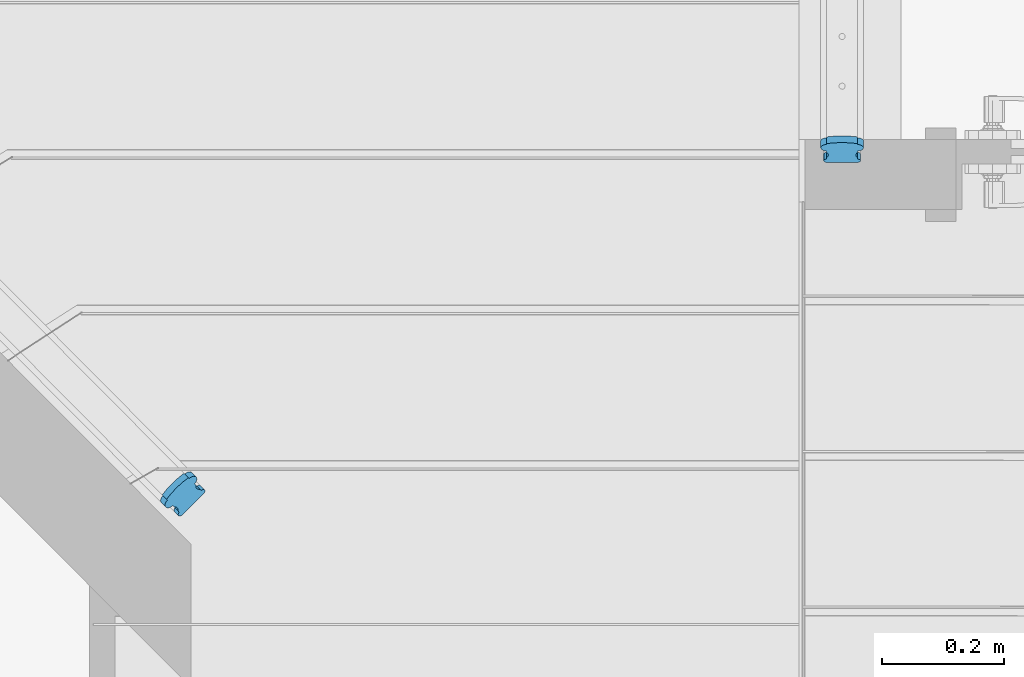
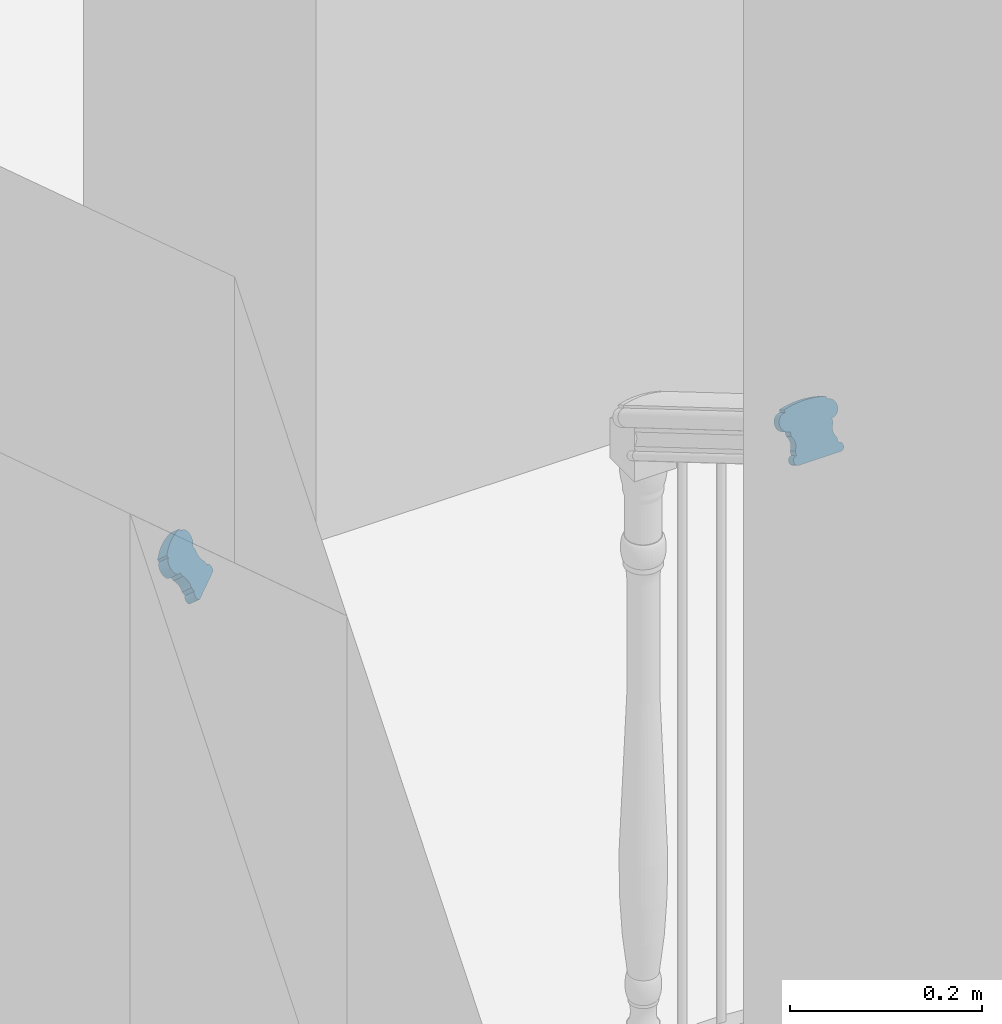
# One storey, part 7 of 24: 2 building element parts, 2 elements without a shape of their own.
"""IFC2X3 building model written with IfcOpenShell, lengths in inches."""

from ifc_helpers import new_model, entity, si_unit, converted_unit, derived_unit, money_unit, direction, frame, origin_with_axes, place, context, subcontext, project, spatial, faceted_brep, material, type_object, element, aggregate, save


model = new_model("IFC2X3")

# Units and contexts
model_context = context("Model", 3, precision=0.000393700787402, world=origin_with_axes(), true_north=direction((0.0, 1.0)))
body_context = subcontext(model_context, "Body", "Model", "MODEL_VIEW")
ifc_project = project(units=[converted_unit("LENGTHUNIT", "INCH", entity("IfcPositiveLengthMeasure", 0.0254), si_unit("LENGTHUNIT", "METRE"), dimensions=[1, 0, 0, 0, 0, 0, 0]), converted_unit("AREAUNIT", "SQUARE_FOOT", entity("IfcPositiveLengthMeasure", 0.09290304), si_unit("AREAUNIT", "SQUARE_METRE"), dimensions=[2, 0, 0, 0, 0, 0, 0]), si_unit("PLANEANGLEUNIT", "RADIAN"), si_unit("SOLIDANGLEUNIT", "STERADIAN"), money_unit("USD"), converted_unit("TIMEUNIT", "Year", entity("IfcTimeMeasure", 31556926.0), si_unit("TIMEUNIT", "SECOND"), dimensions=[0, 0, 1, 0, 0, 0, 0]), si_unit("MASSUNIT", "GRAM", prefix="KILO"), si_unit("THERMODYNAMICTEMPERATUREUNIT", "DEGREE_CELSIUS"), si_unit("LUMINOUSINTENSITYUNIT", "LUMEN"), si_unit("ENERGYUNIT", "JOULE", prefix="MEGA"), derived_unit("THERMALCONDUCTANCEUNIT", [(si_unit("POWERUNIT", "WATT"), 1), (si_unit("LENGTHUNIT", "METRE"), -1), (si_unit("THERMODYNAMICTEMPERATUREUNIT", "KELVIN"), -1)]), derived_unit("SPECIFICHEATCAPACITYUNIT", [(si_unit("ENERGYUNIT", "JOULE"), 1), (si_unit("MASSUNIT", "GRAM", prefix="KILO"), -1), (si_unit("THERMODYNAMICTEMPERATUREUNIT", "KELVIN"), -1)]), derived_unit("MASSDENSITYUNIT", [(si_unit("MASSUNIT", "GRAM", prefix="KILO"), 1), (si_unit("VOLUMEUNIT", "CUBIC_METRE"), -1)])], contexts=[model_context])

# Site, building, storey
site_placement = place(None, origin_with_axes())
site = spatial("IfcSite", under=ifc_project, at=site_placement, Name="Site", CompositionType="ELEMENT")
building_placement = place(site_placement, origin_with_axes())
building = spatial("IfcBuilding", under=site, at=building_placement, Name="Building", CompositionType="ELEMENT")
storey_placement = place(building_placement, origin_with_axes())
storey = spatial("IfcBuildingStorey", under=building, at=storey_placement, Name="First Floor", CompositionType="ELEMENT", Elevation=0.0)

# Railing, building element part
railing_type = type_object("IfcRailingType", Name="Railing Type", PredefinedType="NOTDEFINED")
railing_1_placement = place(storey_placement, frame((643.989643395, 118.830878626, 0.0), z_axis=(0.0, 0.0, 1.0), x_axis=(-1.0, 0.0, 0.0)))
railing_1 = element("IfcRailing", 1, at=railing_1_placement, inside=storey, type_object=railing_type, Name="RAILING - 001", PredefinedType="NOTDEFINED")
ifc_material = material(Name="Wood - Structural")
building_element_part_1_placement = place(railing_1_placement, origin_with_axes())
building_element_part_1 = element("IfcBuildingElementPart", 2, at=building_element_part_1_placement, material=ifc_material, Name="Wood - Structural", context=body_context, shape_type="Brep", body=[
    faceted_brep([(1.84346741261, -3.22663665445, 68.1992433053), (1.79199712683, -3.17480793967, 68.1007156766), (1.50896729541, -2.88980714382, 68.3984885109), (1.56043758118, -2.94163585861, 68.4970161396), (1.80790270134, -3.27391277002, 68.2106877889), (1.57457637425, -3.56377304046, 68.2663412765), (1.32373501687, -3.8420644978, 68.2942743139), (1.05728768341, -4.106669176, 68.2942743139), (0.777262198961, -4.3555732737, 68.2663412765), (0.485789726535, -4.58688248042, 68.2106877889), (0.438267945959, -4.62211825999, 68.1992433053), (0.386797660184, -4.5702895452, 68.1007156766), (0.362347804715, -4.59326454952, 68.0994659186), (0.310283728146, -4.63458200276, 68.0895248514), (0.25533149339, -4.66869666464, 68.0699447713), (0.199160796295, -4.69457197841, 68.0413206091), (0.143478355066, -4.71142173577, 68.0045220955), (0.0899760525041, -4.71873396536, 67.9606673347), (0.0402795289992, -4.71628648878, 67.9110888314), (-0.0041012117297, -4.70415367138, 67.8572930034), (-0.0418176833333, -4.68270416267, 67.8009144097), (-0.0717238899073, -4.65258969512, 67.7436660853), (-0.0929111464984, -4.61472528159, 67.6872874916), (-0.104735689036, -4.57026141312, 67.6334916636), (-0.10683823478, -4.52054910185, 67.5839131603), (-0.0991548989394, -4.46709883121, 67.5400583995), (-0.0819191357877, -4.41153466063, 67.5032598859), (-0.055654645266, -4.3555448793, 67.4746357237), (-0.0211594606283, -4.30083070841, 67.4550556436), (0.0205182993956, -4.24905461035, 67.4451145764), (0.0436624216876, -4.22476477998, 67.4438648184), (-0.0421213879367, -4.13838358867, 67.2796521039), (-0.0392980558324, -4.10918669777, 67.2543910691), (-0.0417927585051, -4.05020228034, 67.1955654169), (-0.055822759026, -3.99744522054, 67.1317358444), (-0.0809617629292, -3.95251851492, 67.0648417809), (-0.116445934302, -3.91678723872, 66.9969157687), (-0.161197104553, -3.89133706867, 66.9300217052), (-0.213855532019, -3.87694129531, 66.8661921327), (-0.272821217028, -3.87403732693, 66.8073664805), (-0.302036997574, -3.87665797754, 66.7821054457), (-0.387820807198, -3.79027678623, 66.6178927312), (-0.400045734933, -3.80176428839, 66.6172678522), (-0.426077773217, -3.82242301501, 66.6122973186), (-0.453553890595, -3.83948034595, 66.6025072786), (-0.481639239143, -3.85241800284, 66.5881951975), (-0.509480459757, -3.86084288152, 66.5697959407), (-0.536231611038, -3.86449899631, 66.5478685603), (-0.561079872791, -3.86327525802, 66.5230793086), (-0.583270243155, -3.85720884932, 66.4961813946), (-0.602128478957, -3.84648409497, 66.4679920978), (-0.617081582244, -3.83142686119, 66.4393679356), (-0.62767521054, -3.81249465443, 66.4111786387), (-0.633587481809, -3.79026272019, 66.3842807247), (-0.63463875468, -3.76540656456, 66.3594914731), (-0.63079708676, -3.73868142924, 66.3375640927), (-0.622179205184, -3.71089934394, 66.3191648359), (-0.609046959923, -3.68290445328, 66.3048527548), (-0.591799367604, -3.65554736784, 66.2950627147), (-0.570960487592, -3.62965931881, 66.2900921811), (-0.559388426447, -3.61751440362, 66.2894673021), (0.845811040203, -2.22203279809, 66.2894673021), (0.858035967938, -2.21054529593, 66.2900921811), (0.884068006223, -2.18988656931, 66.2950627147), (0.9115441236, -2.17282923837, 66.3048527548), (0.939629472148, -2.15989158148, 66.3191648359), (0.967470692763, -2.15146670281, 66.3375640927), (0.994221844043, -2.14781058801, 66.3594914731), (1.0190701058, -2.1490343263, 66.3842807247), (1.04126047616, -2.155100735, 66.4111786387), (1.06011871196, -2.16582548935, 66.4393679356), (1.07507181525, -2.18088272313, 66.4679920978), (1.08566544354, -2.1998149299, 66.4961813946), (1.09157771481, -2.22204686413, 66.5230793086), (1.09262898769, -2.24690301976, 66.5478685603), (1.08878731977, -2.27362815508, 66.5697959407), (1.08016943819, -2.30141024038, 66.5881951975), (1.06703719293, -2.32940513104, 66.6025072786), (1.04978960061, -2.35676221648, 66.6122973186), (1.0289507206, -2.38265026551, 66.6172678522), (1.01737865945, -2.3947951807, 66.6178927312), (1.10316246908, -2.48117637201, 66.7821054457), (1.10033913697, -2.51037326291, 66.8073664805), (1.10283383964, -2.56935768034, 66.8661921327), (1.11686384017, -2.62211474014, 66.9300217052), (1.14200284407, -2.66704144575, 66.9969157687), (1.17748701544, -2.70277272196, 67.0648417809), (1.22223818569, -2.72822289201, 67.1317358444), (1.27489661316, -2.74261866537, 67.1955654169), (1.33386229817, -2.74552263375, 67.2543910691), (1.36307807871, -2.74290198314, 67.2796521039), (1.44886188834, -2.82928317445, 67.4438648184), (1.47331174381, -2.80630817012, 67.4451145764), (1.52537582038, -2.76499071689, 67.4550556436), (1.58032805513, -2.73087605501, 67.4746357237), (1.63649875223, -2.70500074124, 67.5032598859), (1.69218119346, -2.68815098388, 67.5400583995), (1.74568349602, -2.68083875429, 67.5839131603), (1.79538001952, -2.68328623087, 67.6334916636), (1.83976076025, -2.69541904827, 67.6872874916), (1.87747723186, -2.71686855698, 67.7436660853), (1.90738343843, -2.74698302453, 67.8009144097), (1.92857069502, -2.78484743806, 67.8572930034), (1.94039523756, -2.82931130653, 67.9110888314), (1.9424977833, -2.8790236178, 67.9606673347), (1.93481444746, -2.93247388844, 68.0045220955), (1.91757868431, -2.98803805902, 68.0413206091), (1.89131419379, -3.04402784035, 68.0699447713), (1.85681900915, -3.09874201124, 68.0895248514), (1.81514124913, -3.1505181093, 68.0994659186), (1.5321114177, -2.86551731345, 68.397238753), (1.57378917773, -2.81374121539, 68.3872976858), (1.60828436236, -2.7590270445, 68.3677176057), (1.63454885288, -2.70303726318, 68.3390934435), (1.65178461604, -2.64747309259, 68.3022949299), (1.65946795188, -2.59402282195, 68.2584401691), (1.65736540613, -2.54431051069, 68.2088616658), (1.6455408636, -2.49984664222, 68.1550658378), (1.624353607, -2.46198222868, 68.0986872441), (1.59444740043, -2.43186776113, 68.0414389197), (1.55673092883, -2.41041825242, 67.9850603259), (1.5123501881, -2.39828543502, 67.9312644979), (1.46265366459, -2.39583795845, 67.8816859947), (1.40915136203, -2.40315018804, 67.8378312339), (1.3534689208, -2.41999994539, 67.8010327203), (1.29729822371, -2.44587525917, 67.7724085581), (1.24234598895, -2.47998992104, 67.7528284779), (1.19028191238, -2.52130737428, 67.7428874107), (1.16583205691, -2.5442823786, 67.7416376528), (1.08004824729, -2.4579011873, 67.5774249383), (1.05083246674, -2.4605218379, 67.5521639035), (0.991866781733, -2.45761786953, 67.4933382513), (0.939208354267, -2.44322209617, 67.4295086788), (0.894457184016, -2.41777192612, 67.3626146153), (0.858973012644, -2.38204064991, 67.2946886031), (0.833834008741, -2.3371139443, 67.2277945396), (0.81980400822, -2.28435688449, 67.1639649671), (0.817309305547, -2.22537246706, 67.1051393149), (0.820132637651, -2.19617557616, 67.0798782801), (0.734348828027, -2.10979438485, 66.9156655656), (0.745920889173, -2.09764946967, 66.9150406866), (0.766759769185, -2.07176142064, 66.910070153), (0.784007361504, -2.04440433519, 66.9002801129), (0.797139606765, -2.01640944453, 66.8859680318), (0.80575748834, -1.98862735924, 66.867568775), (0.80959915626, -1.96190222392, 66.8456413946), (0.808547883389, -1.93704606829, 66.820852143), (0.80263561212, -1.91481413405, 66.793954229), (0.792041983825, -1.89588192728, 66.7657649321), (0.777088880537, -1.88082469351, 66.7371407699), (0.758230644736, -1.87009993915, 66.7089514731), (0.736040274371, -1.86403353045, 66.6820535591), (0.711192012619, -1.86280979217, 66.6572643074), (0.684440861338, -1.86646590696, 66.635336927), (0.656599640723, -1.87489078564, 66.6169376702), (0.628514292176, -1.88782844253, 66.6026255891), (0.601038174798, -1.90488577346, 66.5928355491), (0.575006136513, -1.92554450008, 66.5878650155), (0.562781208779, -1.93703200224, 66.5872401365), (-0.842418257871, -3.33251360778, 66.5872401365), (-0.853990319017, -3.34465852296, 66.5878650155), (-0.874829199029, -3.37054657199, 66.5928355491), (-0.892076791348, -3.39790365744, 66.6026255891), (-0.905209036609, -3.4258985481, 66.6169376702), (-0.913826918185, -3.45368063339, 66.635336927), (-0.917668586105, -3.48040576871, 66.6572643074), (-0.916617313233, -3.50526192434, 66.6820535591), (-0.910705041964, -3.52749385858, 66.7089514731), (-0.900111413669, -3.54642606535, 66.7371407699), (-0.885158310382, -3.56148329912, 66.7657649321), (-0.86630007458, -3.57220805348, 66.793954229), (-0.844109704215, -3.57827446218, 66.820852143), (-0.819261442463, -3.57949820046, 66.8456413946), (-0.792510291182, -3.57584208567, 66.867568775), (-0.764669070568, -3.56741720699, 66.8859680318), (-0.73658372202, -3.5544795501, 66.9002801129), (-0.709107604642, -3.53742221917, 66.910070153), (-0.683075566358, -3.51676349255, 66.9150406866), (-0.670850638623, -3.50527599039, 66.9156655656), (-0.585066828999, -3.59165718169, 67.0798782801), (-0.555851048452, -3.58903653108, 67.1051393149), (-0.496885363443, -3.59194049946, 67.1639649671), (-0.444226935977, -3.60633627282, 67.2277945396), (-0.399475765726, -3.63178644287, 67.2946886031), (-0.363991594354, -3.66751771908, 67.3626146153), (-0.338852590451, -3.71244442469, 67.4295086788), (-0.32482258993, -3.7652014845, 67.4933382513), (-0.322327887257, -3.82418590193, 67.5521639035), (-0.325151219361, -3.85338279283, 67.5774249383), (-0.239367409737, -3.93976398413, 67.7416376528), (-0.262511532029, -3.9640538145, 67.7428874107), (-0.304189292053, -4.01582991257, 67.7528284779), (-0.338684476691, -4.07054408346, 67.7724085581), (-0.364948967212, -4.12653386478, 67.8010327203), (-0.382184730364, -4.18209803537, 67.8378312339), (-0.389868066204, -4.235548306, 67.8816859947), (-0.387765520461, -4.28526061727, 67.9312644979), (-0.375940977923, -4.32972448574, 67.9850603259), (-0.354753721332, -4.36758889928, 68.0414389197), (-0.324847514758, -4.39770336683, 68.0986872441), (-0.287131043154, -4.41915287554, 68.1550658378), (-0.242750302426, -4.43128569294, 68.2088616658), (-0.193053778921, -4.43373316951, 68.2584401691), (-0.139551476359, -4.42642093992, 68.3022949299), (-0.0838690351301, -4.40957118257, 68.3390934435), (-0.0276983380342, -4.38369586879, 68.3677176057), (0.0272538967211, -4.34958120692, 68.3872976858), (0.07931797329, -4.30826375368, 68.397238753), (0.10376782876, -4.28528874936, 68.3984885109), (0.155238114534, -4.33711746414, 68.4970161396), (0.20275989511, -4.30188168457, 68.5084606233), (0.494232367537, -4.07057247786, 68.5641141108), (0.77425785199, -3.82166838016, 68.5920471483), (1.04070518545, -3.55706370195, 68.5920471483), (1.29154654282, -3.27877224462, 68.5641141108), (1.52487286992, -2.98891197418, 68.5084606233)], [[[0, 1, 2, 3]], [[0, 4, 5, 6, 7, 8, 9, 10, 11, 12, 13, 14, 15, 16, 17, 18, 19, 20, 21, 22, 23, 24, 25, 26, 27, 28, 29, 30, 31, 32, 33, 34, 35, 36, 37, 38, 39, 40, 41, 42, 43, 44, 45, 46, 47, 48, 49, 50, 51, 52, 53, 54, 55, 56, 57, 58, 59, 60, 61, 62, 63, 64, 65, 66, 67, 68, 69, 70, 71, 72, 73, 74, 75, 76, 77, 78, 79, 80, 81, 82, 83, 84, 85, 86, 87, 88, 89, 90, 91, 92, 93, 94, 95, 96, 97, 98, 99, 100, 101, 102, 103, 104, 105, 106, 107, 108, 109, 1]], [[1, 109, 110, 2]], [[3, 2, 110, 111, 112, 113, 114, 115, 116, 117, 118, 119, 120, 121, 122, 123, 124, 125, 126, 127, 128, 129, 130, 131, 132, 133, 134, 135, 136, 137, 138, 139, 140, 141, 142, 143, 144, 145, 146, 147, 148, 149, 150, 151, 152, 153, 154, 155, 156, 157, 158, 159, 160, 161, 162, 163, 164, 165, 166, 167, 168, 169, 170, 171, 172, 173, 174, 175, 176, 177, 178, 179, 180, 181, 182, 183, 184, 185, 186, 187, 188, 189, 190, 191, 192, 193, 194, 195, 196, 197, 198, 199, 200, 201, 202, 203, 204, 205, 206, 207, 208, 209, 210, 211, 212, 213, 214, 215]], [[4, 0, 3, 215]], [[5, 4, 215, 214]], [[6, 5, 214, 213]], [[7, 6, 213, 212]], [[8, 7, 212, 211]], [[9, 8, 211, 210]], [[10, 9, 210, 209]], [[11, 10, 209, 208]], [[12, 11, 208, 207]], [[13, 12, 207, 206]], [[14, 13, 206, 205]], [[15, 14, 205, 204]], [[16, 15, 204, 203]], [[17, 16, 203, 202]], [[18, 17, 202, 201]], [[19, 18, 201, 200]], [[20, 19, 200, 199]], [[21, 20, 199, 198]], [[22, 21, 198, 197]], [[23, 22, 197, 196]], [[24, 23, 196, 195]], [[25, 24, 195, 194]], [[26, 25, 194, 193]], [[27, 26, 193, 192]], [[28, 27, 192, 191]], [[29, 28, 191, 190]], [[30, 29, 190, 189]], [[31, 30, 189, 188]], [[32, 31, 188, 187]], [[33, 32, 187, 186]], [[34, 33, 186, 185]], [[35, 34, 185, 184]], [[36, 35, 184, 183]], [[37, 36, 183, 182]], [[38, 37, 182, 181]], [[39, 38, 181, 180]], [[40, 39, 180, 179]], [[41, 40, 179, 178]], [[42, 41, 178, 177]], [[43, 42, 177, 176]], [[44, 43, 176, 175]], [[45, 44, 175, 174]], [[46, 45, 174, 173]], [[47, 46, 173, 172]], [[48, 47, 172, 171]], [[49, 48, 171, 170]], [[50, 49, 170, 169]], [[51, 50, 169, 168]], [[52, 51, 168, 167]], [[53, 52, 167, 166]], [[54, 53, 166, 165]], [[55, 54, 165, 164]], [[56, 55, 164, 163]], [[57, 56, 163, 162]], [[58, 57, 162, 161]], [[59, 58, 161, 160]], [[60, 59, 160, 159]], [[61, 60, 159, 158]], [[62, 61, 158, 157]], [[63, 62, 157, 156]], [[64, 63, 156, 155]], [[65, 64, 155, 154]], [[66, 65, 154, 153]], [[67, 66, 153, 152]], [[68, 67, 152, 151]], [[69, 68, 151, 150]], [[70, 69, 150, 149]], [[71, 70, 149, 148]], [[72, 71, 148, 147]], [[73, 72, 147, 146]], [[74, 73, 146, 145]], [[75, 74, 145, 144]], [[76, 75, 144, 143]], [[77, 76, 143, 142]], [[78, 77, 142, 141]], [[79, 78, 141, 140]], [[80, 79, 140, 139]], [[81, 80, 139, 138]], [[82, 81, 138, 137]], [[83, 82, 137, 136]], [[84, 83, 136, 135]], [[85, 84, 135, 134]], [[86, 85, 134, 133]], [[87, 86, 133, 132]], [[88, 87, 132, 131]], [[89, 88, 131, 130]], [[90, 89, 130, 129]], [[91, 90, 129, 128]], [[92, 91, 128, 127]], [[93, 92, 127, 126]], [[94, 93, 126, 125]], [[95, 94, 125, 124]], [[96, 95, 124, 123]], [[97, 96, 123, 122]], [[98, 97, 122, 121]], [[99, 98, 121, 120]], [[100, 99, 120, 119]], [[101, 100, 119, 118]], [[102, 101, 118, 117]], [[103, 102, 117, 116]], [[104, 103, 116, 115]], [[105, 104, 115, 114]], [[106, 105, 114, 113]], [[107, 106, 113, 112]], [[108, 107, 112, 111]], [[109, 108, 111, 110]]]),
])
aggregate(railing_1, [building_element_part_1])

railing_2_placement = place(storey_placement, frame((687.845851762, 140.777338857, -3.51027133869e-07), z_axis=(0.0, 0.0, 1.0), x_axis=(1.0, 0.0, 0.0)))
railing_2 = element("IfcRailing", 3, at=railing_2_placement, inside=storey, type_object=railing_type, Name="RAILING - 003", PredefinedType="NOTDEFINED")
building_element_part_2_placement = place(railing_2_placement, origin_with_axes())
building_element_part_2 = element("IfcBuildingElementPart", 4, at=building_element_part_2_placement, material=ifc_material, Name="Wood - Structural", context=body_context, shape_type="Brep", body=[
    faceted_brep([(-2.95870018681, 4.31198348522, 46.7938011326), (-2.95870018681, 4.24975180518, 46.6881114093), (-2.95870018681, 3.81889386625, 46.9418069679), (-2.95870018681, 3.88112554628, 47.0474966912), (-2.90015196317, 4.31921201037, 46.8060775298), (-2.53034410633, 4.35436367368, 46.8657765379), (-2.15626030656, 4.37200664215, 46.8957400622), (-1.78074756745, 4.37200664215, 46.8957400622), (-1.40666376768, 4.35436367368, 46.8657765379), (-1.03685591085, 4.31921201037, 46.8060775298), (-0.97830768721, 4.31198348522, 46.7938011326), (-0.97830768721, 4.24975180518, 46.6881114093), (-0.944769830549, 4.24896243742, 46.6867708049), (-0.878713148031, 4.24268349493, 46.6761071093), (-0.815682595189, 4.23031639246, 46.655103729), (-0.757593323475, 4.21223689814, 46.6243988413), (-0.706210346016, 4.18899434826, 46.5849253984), (-0.663094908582, 4.16129495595, 46.5378827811), (-0.629557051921, 4.12998035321, 46.4847003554), (-0.606615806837, 4.09600201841, 46.4269940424), (-0.594968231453, 4.06039236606, 46.3665172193), (-0.594968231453, 4.02423337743, 46.3051074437), (-0.606615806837, 3.98862372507, 46.2446306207), (-0.629557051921, 3.95464539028, 46.1869243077), (-0.663094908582, 3.92333078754, 46.133741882), (-0.706210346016, 3.89563139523, 46.0866992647), (-0.757593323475, 3.87238884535, 46.0472258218), (-0.815682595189, 3.85430935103, 46.016520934), (-0.878713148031, 3.84194224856, 45.9955175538), (-0.944769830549, 3.83566330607, 45.9848538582), (-0.97830768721, 3.8348739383, 45.9835132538), (-0.97830768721, 3.73115447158, 45.807363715), (-1.00088455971, 3.71519918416, 45.7802664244), (-1.04067773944, 3.67804392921, 45.7171646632), (-1.06789787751, 3.63772811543, 45.6486952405), (-1.08171790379, 3.59547671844, 45.5769385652), (-1.08171790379, 3.55257352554, 45.5040749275), (-1.06789787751, 3.51032212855, 45.4323182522), (-1.04067773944, 3.47000631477, 45.3638488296), (-1.00088455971, 3.43285105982, 45.3007470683), (-0.97830768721, 3.4168957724, 45.2736497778), (-0.97830768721, 3.31317630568, 45.0975002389), (-0.96153875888, 3.31278162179, 45.0968299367), (-0.928510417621, 3.30964215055, 45.0914980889), (-0.896995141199, 3.30345859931, 45.0809963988), (-0.867950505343, 3.29441885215, 45.0656439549), (-0.842259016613, 3.28279757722, 45.0459072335), (-0.820701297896, 3.26894788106, 45.0223859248), (-0.803932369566, 3.25329057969, 44.995794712), (-0.792461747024, 3.23630141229, 44.9669415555), (-0.786637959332, 3.21849658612, 44.936703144), (-0.786637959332, 3.2004170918, 44.9059982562), (-0.792461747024, 3.18261226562, 44.8757598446), (-0.803932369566, 3.16562309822, 44.8469066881), (-0.820701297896, 3.14996579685, 44.8203154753), (-0.842259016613, 3.1361161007, 44.7967941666), (-0.867950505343, 3.12449482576, 44.7770574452), (-0.896995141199, 3.1154550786, 44.7617050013), (-0.928510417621, 3.10927152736, 44.7512033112), (-0.96153875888, 3.10613205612, 44.7458714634), (-0.97830768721, 3.10573737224, 44.7452011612), (-2.95870018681, 3.10573737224, 44.7452011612), (-2.97546911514, 3.10613205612, 44.7458714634), (-3.0084974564, 3.10927152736, 44.7512033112), (-3.04001273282, 3.1154550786, 44.7617050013), (-3.06905736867, 3.12449482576, 44.7770574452), (-3.0947488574, 3.1361161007, 44.7967941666), (-3.11630657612, 3.14996579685, 44.8203154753), (-3.13307550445, 3.16562309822, 44.8469066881), (-3.14454612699, 3.18261226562, 44.8757598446), (-3.15036991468, 3.2004170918, 44.9059982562), (-3.15036991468, 3.21849658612, 44.936703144), (-3.14454612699, 3.23630141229, 44.9669415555), (-3.13307550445, 3.25329057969, 44.995794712), (-3.11630657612, 3.26894788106, 45.0223859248), (-3.0947488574, 3.28279757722, 45.0459072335), (-3.06905736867, 3.29441885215, 45.0656439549), (-3.04001273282, 3.30345859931, 45.0809963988), (-3.0084974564, 3.30964215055, 45.0914980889), (-2.97546911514, 3.31278162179, 45.0968299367), (-2.95870018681, 3.31317630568, 45.0975002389), (-2.95870018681, 3.4168957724, 45.2736497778), (-2.93612331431, 3.43285105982, 45.3007470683), (-2.89633013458, 3.47000631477, 45.3638488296), (-2.86910999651, 3.51032212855, 45.4323182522), (-2.85528997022, 3.55257352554, 45.5040749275), (-2.85528997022, 3.59547671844, 45.5769385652), (-2.86910999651, 3.63772811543, 45.6486952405), (-2.89633013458, 3.67804392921, 45.7171646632), (-2.93612331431, 3.71519918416, 45.7802664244), (-2.95870018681, 3.73115447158, 45.807363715), (-2.95870018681, 3.8348739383, 45.9835132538), (-2.99223804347, 3.83566330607, 45.9848538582), (-3.05829472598, 3.84194224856, 45.9955175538), (-3.12132527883, 3.85430935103, 46.016520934), (-3.17941455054, 3.87238884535, 46.0472258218), (-3.230797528, 3.89563139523, 46.0866992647), (-3.27391296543, 3.92333078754, 46.133741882), (-3.30745082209, 3.95464539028, 46.1869243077), (-3.33039206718, 3.98862372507, 46.2446306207), (-3.34203964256, 4.02423337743, 46.3051074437), (-3.34203964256, 4.06039236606, 46.3665172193), (-3.33039206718, 4.09600201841, 46.4269940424), (-3.30745082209, 4.12998035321, 46.4847003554), (-3.27391296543, 4.16129495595, 46.5378827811), (-3.230797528, 4.18899434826, 46.5849253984), (-3.17941455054, 4.21223689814, 46.6243988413), (-3.12132527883, 4.23031639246, 46.655103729), (-3.05829472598, 4.24268349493, 46.6761071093), (-2.99223804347, 4.24896243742, 46.6867708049), (-2.99223804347, 3.81810449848, 46.9404663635), (-3.05829472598, 3.81182555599, 46.9298026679), (-3.12132527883, 3.79945845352, 46.9087992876), (-3.17941455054, 3.7813789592, 46.8780943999), (-3.230797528, 3.75813640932, 46.838620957), (-3.27391296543, 3.73043701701, 46.7915783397), (-3.30745082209, 3.69912241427, 46.738395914), (-3.33039206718, 3.66514407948, 46.680689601), (-3.34203964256, 3.62953442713, 46.6202127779), (-3.34203964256, 3.59337543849, 46.5588030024), (-3.33039206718, 3.55776578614, 46.4983261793), (-3.30745082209, 3.52378745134, 46.4406198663), (-3.27391296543, 3.4924728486, 46.3874374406), (-3.230797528, 3.46477345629, 46.3403948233), (-3.17941455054, 3.44153090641, 46.3009213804), (-3.12132527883, 3.4234514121, 46.2702164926), (-3.05829472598, 3.41108430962, 46.2492131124), (-2.99223804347, 3.40480536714, 46.2385494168), (-2.95870018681, 3.40401599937, 46.2372088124), (-2.95870018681, 3.30029653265, 46.0610592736), (-2.93612331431, 3.28434124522, 46.033961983), (-2.89633013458, 3.24718599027, 45.9708602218), (-2.86910999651, 3.2068701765, 45.9023907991), (-2.85528997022, 3.1646187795, 45.8306341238), (-2.85528997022, 3.1217155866, 45.7577704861), (-2.86910999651, 3.07946418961, 45.6860138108), (-2.89633013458, 3.03914837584, 45.6175443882), (-2.93612331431, 3.00199312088, 45.5544426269), (-2.95870018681, 2.98603783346, 45.5273453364), (-2.95870018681, 2.88231836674, 45.3511957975), (-2.97546911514, 2.88192368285, 45.3505254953), (-3.0084974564, 2.87878421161, 45.3451936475), (-3.04001273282, 2.87260066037, 45.3346919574), (-3.06905736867, 2.86356091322, 45.3193395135), (-3.0947488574, 2.85193963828, 45.2996027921), (-3.11630657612, 2.83808994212, 45.2760814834), (-3.13307550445, 2.82243264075, 45.2494902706), (-3.14454612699, 2.80544347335, 45.2206371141), (-3.15036991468, 2.78763864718, 45.1903987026), (-3.15036991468, 2.76955915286, 45.1596938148), (-3.14454612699, 2.75175432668, 45.1294554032), (-3.13307550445, 2.73476515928, 45.1006022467), (-3.11630657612, 2.71910785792, 45.0740110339), (-3.0947488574, 2.70525816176, 45.0504897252), (-3.06905736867, 2.69363688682, 45.0307530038), (-3.04001273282, 2.68459713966, 45.0154005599), (-3.0084974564, 2.67841358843, 45.0048988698), (-2.97546911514, 2.67527411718, 44.999567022), (-2.95870018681, 2.6748794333, 44.9988967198), (-0.97830768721, 2.6748794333, 44.9988967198), (-0.96153875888, 2.67527411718, 44.999567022), (-0.928510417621, 2.67841358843, 45.0048988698), (-0.896995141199, 2.68459713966, 45.0154005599), (-0.867950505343, 2.69363688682, 45.0307530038), (-0.842259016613, 2.70525816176, 45.0504897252), (-0.820701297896, 2.71910785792, 45.0740110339), (-0.803932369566, 2.73476515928, 45.1006022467), (-0.792461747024, 2.75175432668, 45.1294554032), (-0.786637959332, 2.76955915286, 45.1596938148), (-0.786637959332, 2.78763864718, 45.1903987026), (-0.792461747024, 2.80544347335, 45.2206371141), (-0.803932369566, 2.82243264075, 45.2494902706), (-0.820701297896, 2.83808994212, 45.2760814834), (-0.842259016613, 2.85193963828, 45.2996027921), (-0.867950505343, 2.86356091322, 45.3193395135), (-0.896995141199, 2.87260066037, 45.3346919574), (-0.928510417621, 2.87878421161, 45.3451936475), (-0.96153875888, 2.88192368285, 45.3505254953), (-0.97830768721, 2.88231836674, 45.3511957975), (-0.97830768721, 2.98603783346, 45.5273453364), (-1.00088455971, 3.00199312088, 45.5544426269), (-1.04067773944, 3.03914837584, 45.6175443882), (-1.06789787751, 3.07946418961, 45.6860138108), (-1.08171790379, 3.1217155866, 45.7577704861), (-1.08171790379, 3.1646187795, 45.8306341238), (-1.06789787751, 3.2068701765, 45.9023907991), (-1.04067773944, 3.24718599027, 45.9708602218), (-1.00088455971, 3.28434124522, 46.033961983), (-0.97830768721, 3.30029653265, 46.0610592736), (-0.97830768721, 3.40401599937, 46.2372088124), (-0.944769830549, 3.40480536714, 46.2385494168), (-0.878713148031, 3.41108430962, 46.2492131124), (-0.815682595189, 3.4234514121, 46.2702164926), (-0.757593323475, 3.44153090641, 46.3009213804), (-0.706210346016, 3.46477345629, 46.3403948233), (-0.663094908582, 3.4924728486, 46.3874374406), (-0.629557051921, 3.52378745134, 46.4406198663), (-0.606615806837, 3.55776578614, 46.4983261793), (-0.594968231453, 3.59337543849, 46.5588030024), (-0.594968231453, 3.62953442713, 46.6202127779), (-0.606615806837, 3.66514407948, 46.680689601), (-0.629557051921, 3.69912241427, 46.738395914), (-0.663094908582, 3.73043701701, 46.7915783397), (-0.706210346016, 3.75813640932, 46.838620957), (-0.757593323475, 3.7813789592, 46.8780943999), (-0.815682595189, 3.79945845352, 46.9087992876), (-0.878713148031, 3.81182555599, 46.9298026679), (-0.944769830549, 3.81810449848, 46.9404663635), (-0.97830768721, 3.81889386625, 46.9418069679), (-0.97830768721, 3.88112554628, 47.0474966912), (-1.03685591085, 3.88835407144, 47.0597730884), (-1.40666376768, 3.92350573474, 47.1194720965), (-1.78074756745, 3.94114870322, 47.1494356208), (-2.15626030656, 3.94114870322, 47.1494356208), (-2.53034410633, 3.92350573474, 47.1194720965), (-2.90015196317, 3.88835407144, 47.0597730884)], [[[0, 1, 2, 3]], [[0, 4, 5, 6, 7, 8, 9, 10, 11, 12, 13, 14, 15, 16, 17, 18, 19, 20, 21, 22, 23, 24, 25, 26, 27, 28, 29, 30, 31, 32, 33, 34, 35, 36, 37, 38, 39, 40, 41, 42, 43, 44, 45, 46, 47, 48, 49, 50, 51, 52, 53, 54, 55, 56, 57, 58, 59, 60, 61, 62, 63, 64, 65, 66, 67, 68, 69, 70, 71, 72, 73, 74, 75, 76, 77, 78, 79, 80, 81, 82, 83, 84, 85, 86, 87, 88, 89, 90, 91, 92, 93, 94, 95, 96, 97, 98, 99, 100, 101, 102, 103, 104, 105, 106, 107, 108, 109, 1]], [[1, 109, 110, 2]], [[3, 2, 110, 111, 112, 113, 114, 115, 116, 117, 118, 119, 120, 121, 122, 123, 124, 125, 126, 127, 128, 129, 130, 131, 132, 133, 134, 135, 136, 137, 138, 139, 140, 141, 142, 143, 144, 145, 146, 147, 148, 149, 150, 151, 152, 153, 154, 155, 156, 157, 158, 159, 160, 161, 162, 163, 164, 165, 166, 167, 168, 169, 170, 171, 172, 173, 174, 175, 176, 177, 178, 179, 180, 181, 182, 183, 184, 185, 186, 187, 188, 189, 190, 191, 192, 193, 194, 195, 196, 197, 198, 199, 200, 201, 202, 203, 204, 205, 206, 207, 208, 209, 210, 211, 212, 213, 214, 215]], [[4, 0, 3, 215]], [[5, 4, 215, 214]], [[6, 5, 214, 213]], [[7, 6, 213, 212]], [[8, 7, 212, 211]], [[9, 8, 211, 210]], [[10, 9, 210, 209]], [[11, 10, 209, 208]], [[12, 11, 208, 207]], [[13, 12, 207, 206]], [[14, 13, 206, 205]], [[15, 14, 205, 204]], [[16, 15, 204, 203]], [[17, 16, 203, 202]], [[18, 17, 202, 201]], [[19, 18, 201, 200]], [[20, 19, 200, 199]], [[21, 20, 199, 198]], [[22, 21, 198, 197]], [[23, 22, 197, 196]], [[24, 23, 196, 195]], [[25, 24, 195, 194]], [[26, 25, 194, 193]], [[27, 26, 193, 192]], [[28, 27, 192, 191]], [[29, 28, 191, 190]], [[30, 29, 190, 189]], [[31, 30, 189, 188]], [[32, 31, 188, 187]], [[33, 32, 187, 186]], [[34, 33, 186, 185]], [[35, 34, 185, 184]], [[36, 35, 184, 183]], [[37, 36, 183, 182]], [[38, 37, 182, 181]], [[39, 38, 181, 180]], [[40, 39, 180, 179]], [[41, 40, 179, 178]], [[42, 41, 178, 177]], [[43, 42, 177, 176]], [[44, 43, 176, 175]], [[45, 44, 175, 174]], [[46, 45, 174, 173]], [[47, 46, 173, 172]], [[48, 47, 172, 171]], [[49, 48, 171, 170]], [[50, 49, 170, 169]], [[51, 50, 169, 168]], [[52, 51, 168, 167]], [[53, 52, 167, 166]], [[54, 53, 166, 165]], [[55, 54, 165, 164]], [[56, 55, 164, 163]], [[57, 56, 163, 162]], [[58, 57, 162, 161]], [[59, 58, 161, 160]], [[60, 59, 160, 159]], [[61, 60, 159, 158]], [[62, 61, 158, 157]], [[63, 62, 157, 156]], [[64, 63, 156, 155]], [[65, 64, 155, 154]], [[66, 65, 154, 153]], [[67, 66, 153, 152]], [[68, 67, 152, 151]], [[69, 68, 151, 150]], [[70, 69, 150, 149]], [[71, 70, 149, 148]], [[72, 71, 148, 147]], [[73, 72, 147, 146]], [[74, 73, 146, 145]], [[75, 74, 145, 144]], [[76, 75, 144, 143]], [[77, 76, 143, 142]], [[78, 77, 142, 141]], [[79, 78, 141, 140]], [[80, 79, 140, 139]], [[81, 80, 139, 138]], [[82, 81, 138, 137]], [[83, 82, 137, 136]], [[84, 83, 136, 135]], [[85, 84, 135, 134]], [[86, 85, 134, 133]], [[87, 86, 133, 132]], [[88, 87, 132, 131]], [[89, 88, 131, 130]], [[90, 89, 130, 129]], [[91, 90, 129, 128]], [[92, 91, 128, 127]], [[93, 92, 127, 126]], [[94, 93, 126, 125]], [[95, 94, 125, 124]], [[96, 95, 124, 123]], [[97, 96, 123, 122]], [[98, 97, 122, 121]], [[99, 98, 121, 120]], [[100, 99, 120, 119]], [[101, 100, 119, 118]], [[102, 101, 118, 117]], [[103, 102, 117, 116]], [[104, 103, 116, 115]], [[105, 104, 115, 114]], [[106, 105, 114, 113]], [[107, 106, 113, 112]], [[108, 107, 112, 111]], [[109, 108, 111, 110]]]),
])
aggregate(railing_2, [building_element_part_2])

save(model, "model.ifc")
